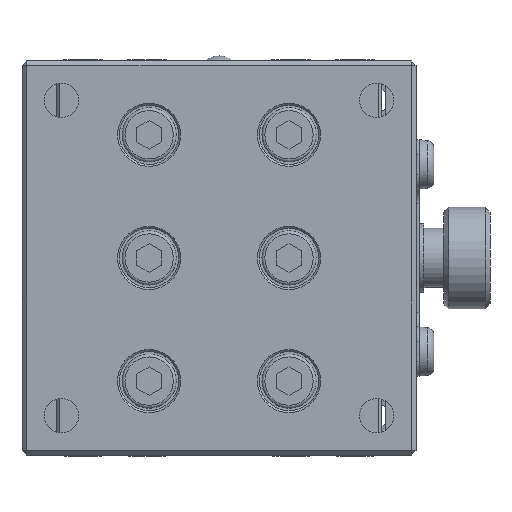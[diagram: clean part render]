
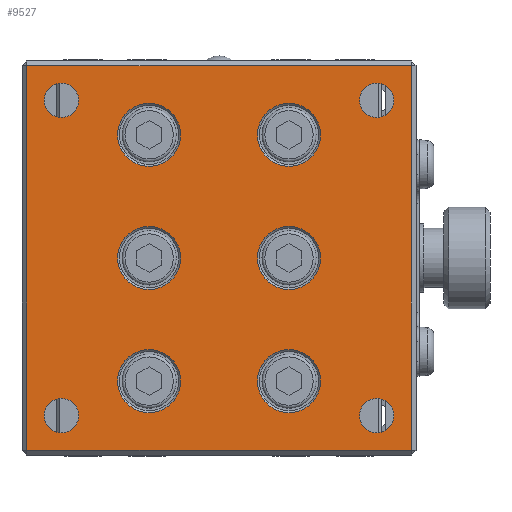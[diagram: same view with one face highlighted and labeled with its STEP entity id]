
A CAD part, front view. The second image highlights one B-rep face of the part: STEP entity #9527.
In plain terms, the highlighted planar face has unit normal (0, -1, 0).
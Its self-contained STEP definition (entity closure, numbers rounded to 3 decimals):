
#84=PLANE('',#10185);
#535=CIRCLE('',#10186,1.75);
#536=CIRCLE('',#10187,1.75);
#537=CIRCLE('',#10188,1.75);
#538=CIRCLE('',#10189,1.75);
#539=CIRCLE('',#10190,3.2);
#540=CIRCLE('',#10191,3.2);
#541=CIRCLE('',#10192,3.2);
#542=CIRCLE('',#10193,3.2);
#543=CIRCLE('',#10194,3.2);
#544=CIRCLE('',#10195,3.2);
#965=ORIENTED_EDGE('',*,*,#3694,.T.);
#966=ORIENTED_EDGE('',*,*,#3695,.T.);
#967=ORIENTED_EDGE('',*,*,#3696,.T.);
#968=ORIENTED_EDGE('',*,*,#3697,.T.);
#969=ORIENTED_EDGE('',*,*,#3698,.F.);
#970=ORIENTED_EDGE('',*,*,#3699,.F.);
#971=ORIENTED_EDGE('',*,*,#3700,.F.);
#972=ORIENTED_EDGE('',*,*,#3701,.F.);
#973=ORIENTED_EDGE('',*,*,#3702,.F.);
#974=ORIENTED_EDGE('',*,*,#3703,.F.);
#975=ORIENTED_EDGE('',*,*,#3704,.F.);
#976=ORIENTED_EDGE('',*,*,#3705,.F.);
#977=ORIENTED_EDGE('',*,*,#3706,.F.);
#978=ORIENTED_EDGE('',*,*,#3707,.F.);
#3694=EDGE_CURVE('',#5058,#5059,#5982,.T.);
#3695=EDGE_CURVE('',#5059,#5060,#5983,.T.);
#3696=EDGE_CURVE('',#5060,#5061,#5984,.T.);
#3697=EDGE_CURVE('',#5061,#5058,#5985,.T.);
#3698=EDGE_CURVE('',#5062,#5062,#535,.T.);
#3699=EDGE_CURVE('',#5063,#5063,#536,.T.);
#3700=EDGE_CURVE('',#5064,#5064,#537,.T.);
#3701=EDGE_CURVE('',#5065,#5065,#538,.T.);
#3702=EDGE_CURVE('',#5066,#5066,#539,.T.);
#3703=EDGE_CURVE('',#5067,#5067,#540,.T.);
#3704=EDGE_CURVE('',#5068,#5068,#541,.T.);
#3705=EDGE_CURVE('',#5069,#5069,#542,.T.);
#3706=EDGE_CURVE('',#5070,#5070,#543,.T.);
#3707=EDGE_CURVE('',#5071,#5071,#544,.T.);
#5058=VERTEX_POINT('',#14236);
#5059=VERTEX_POINT('',#14237);
#5060=VERTEX_POINT('',#14239);
#5061=VERTEX_POINT('',#14241);
#5062=VERTEX_POINT('',#14244);
#5063=VERTEX_POINT('',#14246);
#5064=VERTEX_POINT('',#14248);
#5065=VERTEX_POINT('',#14250);
#5066=VERTEX_POINT('',#14252);
#5067=VERTEX_POINT('',#14254);
#5068=VERTEX_POINT('',#14256);
#5069=VERTEX_POINT('',#14258);
#5070=VERTEX_POINT('',#14260);
#5071=VERTEX_POINT('',#14262);
#5982=LINE('',#14235,#6957);
#5983=LINE('',#14238,#6958);
#5984=LINE('',#14240,#6959);
#5985=LINE('',#14242,#6960);
#6957=VECTOR('',#11255,1000.);
#6958=VECTOR('',#11256,1000.);
#6959=VECTOR('',#11257,1000.);
#6960=VECTOR('',#11258,1000.);
#7877=EDGE_LOOP('',(#965,#966,#967,#968));
#7878=EDGE_LOOP('',(#969));
#7879=EDGE_LOOP('',(#970));
#7880=EDGE_LOOP('',(#971));
#7881=EDGE_LOOP('',(#972));
#7882=EDGE_LOOP('',(#973));
#7883=EDGE_LOOP('',(#974));
#7884=EDGE_LOOP('',(#975));
#7885=EDGE_LOOP('',(#976));
#7886=EDGE_LOOP('',(#977));
#7887=EDGE_LOOP('',(#978));
#8646=FACE_BOUND('',#7877,.T.);
#8647=FACE_BOUND('',#7878,.T.);
#8648=FACE_BOUND('',#7879,.T.);
#8649=FACE_BOUND('',#7880,.T.);
#8650=FACE_BOUND('',#7881,.T.);
#8651=FACE_BOUND('',#7882,.T.);
#8652=FACE_BOUND('',#7883,.T.);
#8653=FACE_BOUND('',#7884,.T.);
#8654=FACE_BOUND('',#7885,.T.);
#8655=FACE_BOUND('',#7886,.T.);
#8656=FACE_BOUND('',#7887,.T.);
#9527=ADVANCED_FACE('',(#8646,#8647,#8648,#8649,#8650,#8651,#8652,#8653,
#8654,#8655,#8656),#84,.F.);
#10185=AXIS2_PLACEMENT_3D('',#14234,#11253,#11254);
#10186=AXIS2_PLACEMENT_3D('',#14243,#11259,#11260);
#10187=AXIS2_PLACEMENT_3D('',#14245,#11261,#11262);
#10188=AXIS2_PLACEMENT_3D('',#14247,#11263,#11264);
#10189=AXIS2_PLACEMENT_3D('',#14249,#11265,#11266);
#10190=AXIS2_PLACEMENT_3D('',#14251,#11267,#11268);
#10191=AXIS2_PLACEMENT_3D('',#14253,#11269,#11270);
#10192=AXIS2_PLACEMENT_3D('',#14255,#11271,#11272);
#10193=AXIS2_PLACEMENT_3D('',#14257,#11273,#11274);
#10194=AXIS2_PLACEMENT_3D('',#14259,#11275,#11276);
#10195=AXIS2_PLACEMENT_3D('',#14261,#11277,#11278);
#11253=DIRECTION('',(0.,1.,0.));
#11254=DIRECTION('',(0.,0.,1.));
#11255=DIRECTION('',(0.,0.,1.));
#11256=DIRECTION('',(-1.,0.,0.));
#11257=DIRECTION('',(0.,0.,-1.));
#11258=DIRECTION('',(1.,0.,0.));
#11259=DIRECTION('',(0.,-1.,0.));
#11260=DIRECTION('',(0.,0.,-1.));
#11261=DIRECTION('',(0.,-1.,0.));
#11262=DIRECTION('',(0.,0.,-1.));
#11263=DIRECTION('',(0.,-1.,0.));
#11264=DIRECTION('',(0.,0.,-1.));
#11265=DIRECTION('',(0.,-1.,0.));
#11266=DIRECTION('',(0.,0.,-1.));
#11267=DIRECTION('',(0.,-1.,0.));
#11268=DIRECTION('',(0.,0.,-1.));
#11269=DIRECTION('',(0.,-1.,0.));
#11270=DIRECTION('',(0.,0.,-1.));
#11271=DIRECTION('',(0.,-1.,0.));
#11272=DIRECTION('',(0.,0.,-1.));
#11273=DIRECTION('',(0.,-1.,0.));
#11274=DIRECTION('',(0.,0.,-1.));
#11275=DIRECTION('',(0.,-1.,0.));
#11276=DIRECTION('',(0.,0.,-1.));
#11277=DIRECTION('',(0.,-1.,0.));
#11278=DIRECTION('',(0.,0.,-1.));
#14234=CARTESIAN_POINT('',(-20.,0.,20.));
#14235=CARTESIAN_POINT('',(19.5,0.,20.));
#14236=CARTESIAN_POINT('',(19.5,0.,-19.5));
#14237=CARTESIAN_POINT('',(19.5,0.,19.5));
#14238=CARTESIAN_POINT('',(-20.,0.,19.5));
#14239=CARTESIAN_POINT('',(-19.5,0.,19.5));
#14240=CARTESIAN_POINT('',(-19.5,0.,20.));
#14241=CARTESIAN_POINT('',(-19.5,0.,-19.5));
#14242=CARTESIAN_POINT('',(-20.,0.,-19.5));
#14243=CARTESIAN_POINT('',(16.,0.,-16.));
#14244=CARTESIAN_POINT('',(16.,0.,-17.75));
#14245=CARTESIAN_POINT('',(-16.,0.,16.));
#14246=CARTESIAN_POINT('',(-16.,0.,14.25));
#14247=CARTESIAN_POINT('',(-16.,0.,-16.));
#14248=CARTESIAN_POINT('',(-16.,0.,-17.75));
#14249=CARTESIAN_POINT('',(16.,0.,16.));
#14250=CARTESIAN_POINT('',(16.,0.,14.25));
#14251=CARTESIAN_POINT('',(7.1,0.,-12.5));
#14252=CARTESIAN_POINT('',(7.1,0.,-15.7));
#14253=CARTESIAN_POINT('',(-7.1,0.,12.5));
#14254=CARTESIAN_POINT('',(-7.1,0.,9.3));
#14255=CARTESIAN_POINT('',(-7.1,0.,0.));
#14256=CARTESIAN_POINT('',(-7.1,0.,-3.2));
#14257=CARTESIAN_POINT('',(-7.1,0.,-12.5));
#14258=CARTESIAN_POINT('',(-7.1,0.,-15.7));
#14259=CARTESIAN_POINT('',(7.1,0.,0.));
#14260=CARTESIAN_POINT('',(7.1,0.,-3.2));
#14261=CARTESIAN_POINT('',(7.1,0.,12.5));
#14262=CARTESIAN_POINT('',(7.1,0.,9.3));
